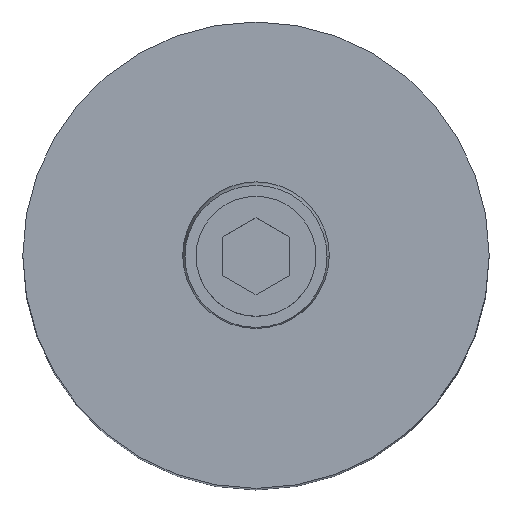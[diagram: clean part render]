
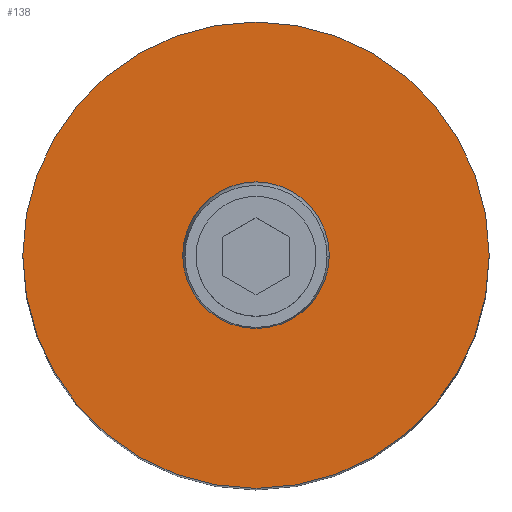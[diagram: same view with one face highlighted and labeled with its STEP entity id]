
A CAD part, top view. The second image highlights one B-rep face of the part: STEP entity #138.
In plain terms, the highlighted planar face has unit normal (0, 0, 1).
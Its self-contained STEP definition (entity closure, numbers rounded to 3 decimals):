
#107=PLANE('',#636);
#122=FACE_BOUND('',#215,.T.);
#123=FACE_BOUND('',#216,.T.);
#138=ADVANCED_FACE('',(#122,#123),#107,.T.);
#215=EDGE_LOOP('',(#297,#298));
#216=EDGE_LOOP('',(#299,#300));
#255=CIRCLE('',#628,35.);
#258=CIRCLE('',#632,35.);
#259=CIRCLE('',#634,11.);
#260=CIRCLE('',#635,11.);
#297=ORIENTED_EDGE('',*,*,#484,.T.);
#298=ORIENTED_EDGE('',*,*,#480,.T.);
#299=ORIENTED_EDGE('',*,*,#485,.F.);
#300=ORIENTED_EDGE('',*,*,#486,.F.);
#434=VERTEX_POINT('',#878);
#435=VERTEX_POINT('',#880);
#437=VERTEX_POINT('',#889);
#438=VERTEX_POINT('',#890);
#480=EDGE_CURVE('',#435,#434,#255,.T.);
#484=EDGE_CURVE('',#434,#435,#258,.T.);
#485=EDGE_CURVE('',#437,#438,#259,.T.);
#486=EDGE_CURVE('',#438,#437,#260,.T.);
#628=AXIS2_PLACEMENT_3D('',#879,#700,#701);
#632=AXIS2_PLACEMENT_3D('',#886,#709,#710);
#634=AXIS2_PLACEMENT_3D('',#888,#713,#714);
#635=AXIS2_PLACEMENT_3D('',#891,#715,#716);
#636=AXIS2_PLACEMENT_3D('',#892,#717,#718);
#700=DIRECTION('',(0.,0.,1.));
#701=DIRECTION('',(0.,1.,0.));
#709=DIRECTION('',(0.,0.,1.));
#710=DIRECTION('',(0.,-1.,0.));
#713=DIRECTION('',(0.,0.,1.));
#714=DIRECTION('',(0.,1.,0.));
#715=DIRECTION('',(0.,0.,1.));
#716=DIRECTION('',(0.,-1.,0.));
#717=DIRECTION('',(0.,0.,1.));
#718=DIRECTION('',(0.,-1.,0.));
#878=CARTESIAN_POINT('',(35.,0.,140.));
#879=CARTESIAN_POINT('',(0.,0.,140.));
#880=CARTESIAN_POINT('',(-35.,0.,140.));
#886=CARTESIAN_POINT('',(0.,0.,140.));
#888=CARTESIAN_POINT('',(0.,0.,140.));
#889=CARTESIAN_POINT('',(-11.,0.,140.));
#890=CARTESIAN_POINT('',(11.,0.,140.));
#891=CARTESIAN_POINT('',(0.,0.,140.));
#892=CARTESIAN_POINT('',(0.,0.,140.));
